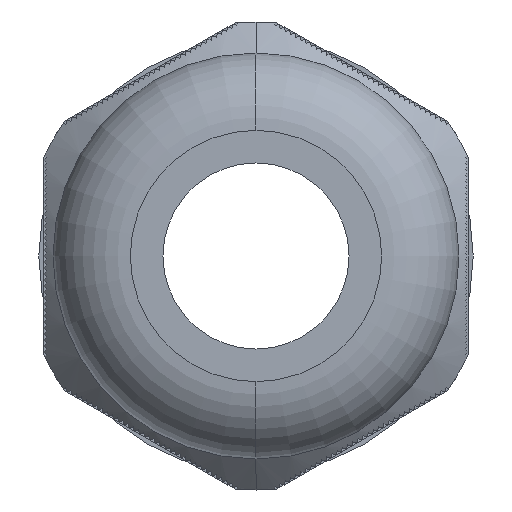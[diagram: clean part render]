
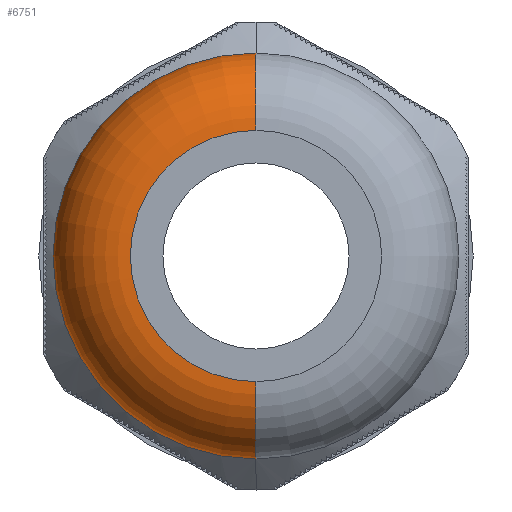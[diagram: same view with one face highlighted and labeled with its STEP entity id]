
A CAD part, left-side view. The second image highlights one B-rep face of the part: STEP entity #6751.
In plain terms, the highlighted toroidal (fillet/blend) face has major radius 10.655 mm and minor radius 6.573 mm.
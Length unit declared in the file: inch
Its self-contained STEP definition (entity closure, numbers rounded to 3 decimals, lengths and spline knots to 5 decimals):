
#424 = CARTESIAN_POINT ( 'NONE',  ( 0.23858, 0., 0.6775 ) ) ;
#806 = ORIENTED_EDGE ( 'NONE', *, *, #7606, .T. ) ;
#1552 = VERTEX_POINT ( 'NONE', #424 ) ;
#1798 = CARTESIAN_POINT ( 'NONE',  ( 0.23858, 0., -0.6775 ) ) ;
#2708 = DIRECTION ( 'NONE',  ( -1., 0., 0. ) ) ;
#3229 = DIRECTION ( 'NONE',  ( 0., 0., 1. ) ) ;
#3517 = DIRECTION ( 'NONE',  ( -1., 0., 0. ) ) ;
#3910 = DIRECTION ( 'NONE',  ( 0., 1., 0. ) ) ;
#4312 = EDGE_CURVE ( 'NONE', #7383, #1552, #11934, .T. ) ;
#4512 = DIRECTION ( 'NONE',  ( 1., 0., 0. ) ) ;
#4705 = CIRCLE ( 'NONE', #9723, 0.25879 ) ;
#5958 = AXIS2_PLACEMENT_3D ( 'NONE', #11932, #3517, #13301 ) ;
#6517 = DIRECTION ( 'NONE',  ( 0., 0., -1. ) ) ;
#6751 = ADVANCED_FACE ( 'NONE', ( #16045 ), #8624, .T. ) ;
#6825 = EDGE_CURVE ( 'NONE', #1552, #17983, #4705, .T. ) ;
#6889 = AXIS2_PLACEMENT_3D ( 'NONE', #7376, #2708, #13806 ) ;
#7287 = CARTESIAN_POINT ( 'NONE',  ( 0., 0., 0.4195 ) ) ;
#7376 = CARTESIAN_POINT ( 'NONE',  ( 0.25879, 0., 0. ) ) ;
#7383 = VERTEX_POINT ( 'NONE', #1798 ) ;
#7606 = EDGE_CURVE ( 'NONE', #7383, #10657, #14161, .T. ) ;
#8624 = TOROIDAL_SURFACE ( 'NONE', #6889, 0.4195, 0.25879 ) ;
#8665 = CARTESIAN_POINT ( 'NONE',  ( 0.23858, 0., 0. ) ) ;
#9334 = ORIENTED_EDGE ( 'NONE', *, *, #6825, .F. ) ;
#9396 = CARTESIAN_POINT ( 'NONE',  ( 0.25879, 0., 0.4195 ) ) ;
#9723 = AXIS2_PLACEMENT_3D ( 'NONE', #9396, #12956, #6517 ) ;
#10134 = DIRECTION ( 'NONE',  ( 0., 0., -1. ) ) ;
#10657 = VERTEX_POINT ( 'NONE', #13035 ) ;
#11511 = AXIS2_PLACEMENT_3D ( 'NONE', #11768, #3910, #3229 ) ;
#11768 = CARTESIAN_POINT ( 'NONE',  ( 0.25879, 0., -0.4195 ) ) ;
#11822 = ORIENTED_EDGE ( 'NONE', *, *, #17688, .F. ) ;
#11932 = CARTESIAN_POINT ( 'NONE',  ( 0., 0., 0. ) ) ;
#11934 = CIRCLE ( 'NONE', #17739, 0.6775 ) ;
#12218 = CIRCLE ( 'NONE', #5958, 0.4195 ) ;
#12610 = EDGE_LOOP ( 'NONE', ( #13164, #806, #11822, #9334 ) ) ;
#12956 = DIRECTION ( 'NONE',  ( 0., -1., 0. ) ) ;
#13035 = CARTESIAN_POINT ( 'NONE',  ( 0., 0., -0.4195 ) ) ;
#13164 = ORIENTED_EDGE ( 'NONE', *, *, #4312, .F. ) ;
#13301 = DIRECTION ( 'NONE',  ( 0., 0., 1. ) ) ;
#13806 = DIRECTION ( 'NONE',  ( 0., 0., 1. ) ) ;
#14161 = CIRCLE ( 'NONE', #11511, 0.25879 ) ;
#16045 = FACE_OUTER_BOUND ( 'NONE', #12610, .T. ) ;
#17688 = EDGE_CURVE ( 'NONE', #17983, #10657, #12218, .T. ) ;
#17739 = AXIS2_PLACEMENT_3D ( 'NONE', #8665, #4512, #10134 ) ;
#17983 = VERTEX_POINT ( 'NONE', #7287 ) ;
